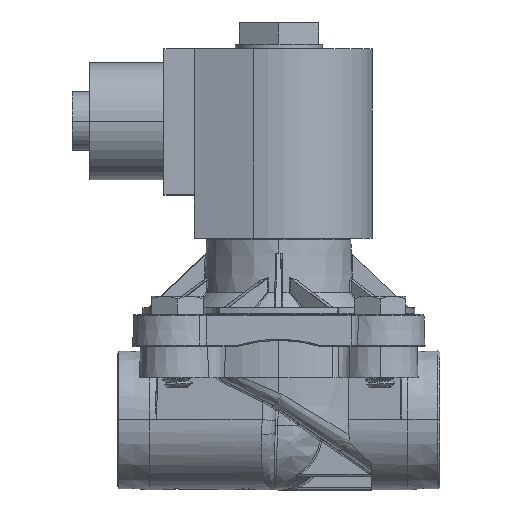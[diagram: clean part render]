
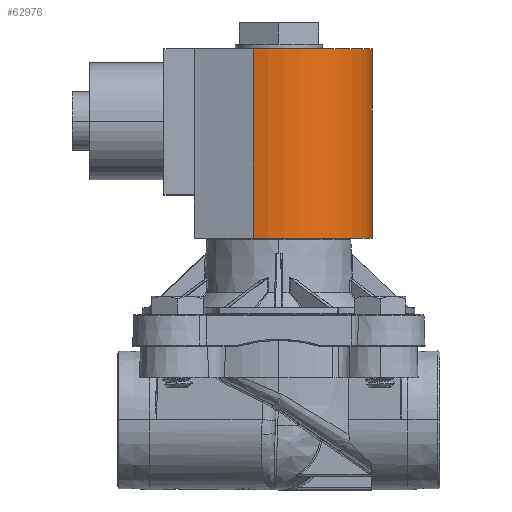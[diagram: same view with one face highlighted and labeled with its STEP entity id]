
A CAD part, top view. The second image highlights one B-rep face of the part: STEP entity #62976.
In plain terms, the highlighted cylindrical face has radius 20.32 mm (diameter 40.64 mm), a partial arc.
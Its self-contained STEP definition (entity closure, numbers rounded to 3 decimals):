
#1599 = LINE ( 'NONE', #10988, #109509 ) ;
#5536 = ORIENTED_EDGE ( 'NONE', *, *, #103569, .T. ) ;
#6226 = EDGE_CURVE ( 'NONE', #68722, #7747, #1599, .T. ) ;
#7747 = VERTEX_POINT ( 'NONE', #90656 ) ;
#10988 = CARTESIAN_POINT ( 'NONE',  ( 20.348, 73.508, 0.001 ) ) ;
#17872 = VECTOR ( 'NONE', #106513, 1000. ) ;
#23026 = ORIENTED_EDGE ( 'NONE', *, *, #95976, .T. ) ;
#27527 = CARTESIAN_POINT ( 'NONE',  ( 0.028, 32.36, 0.001 ) ) ;
#28736 = DIRECTION ( 'NONE',  ( 0., -1., 0. ) ) ;
#29730 = DIRECTION ( 'NONE',  ( -1., 0., 0. ) ) ;
#30358 = CYLINDRICAL_SURFACE ( 'NONE', #58352, 20.32 ) ;
#37614 = CARTESIAN_POINT ( 'NONE',  ( 0.028, 73.508, 0.001 ) ) ;
#39139 = AXIS2_PLACEMENT_3D ( 'NONE', #37614, #71444, #63137 ) ;
#39240 = EDGE_CURVE ( 'NONE', #63388, #68722, #60412, .T. ) ;
#45747 = CARTESIAN_POINT ( 'NONE',  ( -5.58, 73.508, 19.531 ) ) ;
#45893 = FACE_OUTER_BOUND ( 'NONE', #72456, .T. ) ;
#58352 = AXIS2_PLACEMENT_3D ( 'NONE', #89667, #71960, #106818 ) ;
#60412 = CIRCLE ( 'NONE', #39139, 20.32 ) ;
#62794 = ORIENTED_EDGE ( 'NONE', *, *, #6226, .F. ) ;
#62976 = ADVANCED_FACE ( 'Defeatured_0_654', ( #45893 ), #30358, .T. ) ;
#63019 = DIRECTION ( 'NONE',  ( 0., 1., 0. ) ) ;
#63137 = DIRECTION ( 'NONE',  ( -1., 0., 0. ) ) ;
#63388 = VERTEX_POINT ( 'NONE', #45747 ) ;
#66097 = LINE ( 'NONE', #73295, #17872 ) ;
#67903 = AXIS2_PLACEMENT_3D ( 'NONE', #27527, #63019, #29730 ) ;
#68722 = VERTEX_POINT ( 'NONE', #88389 ) ;
#71444 = DIRECTION ( 'NONE',  ( 0., 1., 0. ) ) ;
#71960 = DIRECTION ( 'NONE',  ( 0., -1., 0. ) ) ;
#72456 = EDGE_LOOP ( 'NONE', ( #62794, #86672, #23026, #5536 ) ) ;
#72563 = VERTEX_POINT ( 'NONE', #106336 ) ;
#73295 = CARTESIAN_POINT ( 'NONE',  ( -5.58, 73.508, 19.531 ) ) ;
#86672 = ORIENTED_EDGE ( 'NONE', *, *, #39240, .F. ) ;
#88389 = CARTESIAN_POINT ( 'NONE',  ( 20.348, 73.508, 0.001 ) ) ;
#89667 = CARTESIAN_POINT ( 'NONE',  ( 0.028, 73.508, 0.001 ) ) ;
#90656 = CARTESIAN_POINT ( 'NONE',  ( 20.348, 32.36, 0.001 ) ) ;
#94435 = CIRCLE ( 'NONE', #67903, 20.32 ) ;
#95976 = EDGE_CURVE ( 'NONE', #63388, #72563, #66097, .T. ) ;
#103569 = EDGE_CURVE ( 'NONE', #72563, #7747, #94435, .T. ) ;
#106336 = CARTESIAN_POINT ( 'NONE',  ( -5.58, 32.36, 19.531 ) ) ;
#106513 = DIRECTION ( 'NONE',  ( 0., -1., 0. ) ) ;
#106818 = DIRECTION ( 'NONE',  ( 1., 0., 0. ) ) ;
#109509 = VECTOR ( 'NONE', #28736, 1000. ) ;
